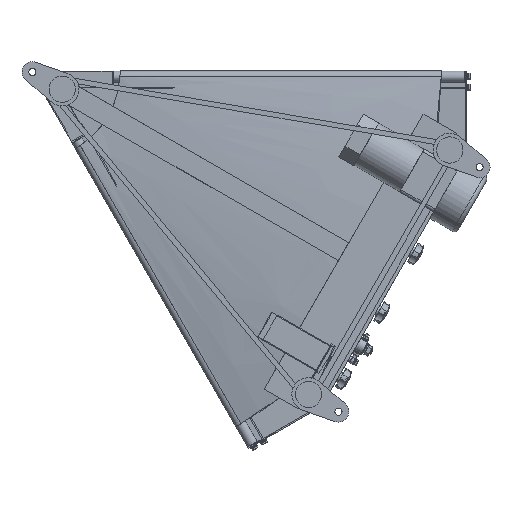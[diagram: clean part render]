
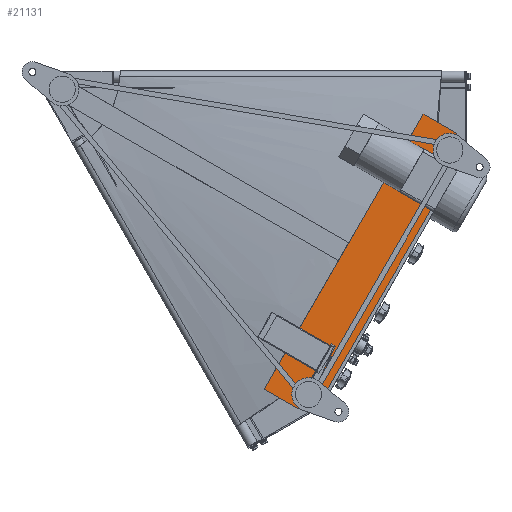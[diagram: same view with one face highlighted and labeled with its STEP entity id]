
A CAD part, front view. The second image highlights one B-rep face of the part: STEP entity #21131.
In plain terms, the highlighted planar face has unit normal (0, -1, 0).
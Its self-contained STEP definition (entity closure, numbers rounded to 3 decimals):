
#324 = VECTOR ( 'NONE', #20031, 1000. ) ;
#1496 = CARTESIAN_POINT ( 'NONE',  ( 425.679, -167.5, -580.629 ) ) ;
#1975 = CARTESIAN_POINT ( 'NONE',  ( 527.282, -167.5, -604.648 ) ) ;
#1992 = ORIENTED_EDGE ( 'NONE', *, *, #27742, .F. ) ;
#2556 = VERTEX_POINT ( 'NONE', #29020 ) ;
#3502 = CARTESIAN_POINT ( 'NONE',  ( 715.679, -167.5, -78.334 ) ) ;
#4289 = VERTEX_POINT ( 'NONE', #23132 ) ;
#5788 = ORIENTED_EDGE ( 'NONE', *, *, #7046, .F. ) ;
#7046 = EDGE_CURVE ( 'NONE', #11549, #4289, #10796, .T. ) ;
#7268 = EDGE_CURVE ( 'NONE', #2556, #18022, #24942, .T. ) ;
#9981 = VERTEX_POINT ( 'NONE', #3502 ) ;
#10311 = ORIENTED_EDGE ( 'NONE', *, *, #7268, .F. ) ;
#10780 = VECTOR ( 'NONE', #22628, 1000. ) ;
#10796 = LINE ( 'NONE', #1496, #324 ) ;
#11549 = VERTEX_POINT ( 'NONE', #30405 ) ;
#14373 = VECTOR ( 'NONE', #29434, 1000. ) ;
#15575 = CARTESIAN_POINT ( 'NONE',  ( 527.282, -167.5, -604.648 ) ) ;
#15815 = EDGE_CURVE ( 'NONE', #18022, #11549, #23230, .T. ) ;
#16755 = EDGE_CURVE ( 'NONE', #31753, #2556, #23995, .T. ) ;
#18022 = VERTEX_POINT ( 'NONE', #15575 ) ;
#18273 = LINE ( 'NONE', #30190, #10780 ) ;
#19398 = AXIS2_PLACEMENT_3D ( 'NONE', #20263, #20144, #30745 ) ;
#19778 = PLANE ( 'NONE',  #19398 ) ;
#20031 = DIRECTION ( 'NONE',  ( -0.866, 0., 0.5 ) ) ;
#20054 = CARTESIAN_POINT ( 'NONE',  ( 715.679, -167.5, -78.334 ) ) ;
#20144 = DIRECTION ( 'NONE',  ( 0., 1., 0. ) ) ;
#20263 = CARTESIAN_POINT ( 'NONE',  ( 9.062, -167.5, -5.232 ) ) ;
#21131 = ADVANCED_FACE ( 'NONE', ( #24205 ), #19778, .F. ) ;
#22139 = VECTOR ( 'NONE', #25532, 1000. ) ;
#22628 = DIRECTION ( 'NONE',  ( 0.5, 0., 0.866 ) ) ;
#23132 = CARTESIAN_POINT ( 'NONE',  ( 425.679, -167.5, -580.629 ) ) ;
#23230 = LINE ( 'NONE', #28581, #26563 ) ;
#23995 = LINE ( 'NONE', #24521, #14373 ) ;
#24117 = VECTOR ( 'NONE', #28646, 1000. ) ;
#24205 = FACE_OUTER_BOUND ( 'NONE', #25577, .T. ) ;
#24521 = CARTESIAN_POINT ( 'NONE',  ( 787.282, -167.5, -154.315 ) ) ;
#24942 = LINE ( 'NONE', #1975, #24117 ) ;
#25532 = DIRECTION ( 'NONE',  ( 0.866, 0., -0.5 ) ) ;
#25577 = EDGE_LOOP ( 'NONE', ( #33066, #29635, #1992, #5788, #27126, #10311 ) ) ;
#25922 = DIRECTION ( 'NONE',  ( -0.966, 0., -0.259 ) ) ;
#25956 = CARTESIAN_POINT ( 'NONE',  ( 776.301, -167.5, -113.334 ) ) ;
#26563 = VECTOR ( 'NONE', #25922, 1000. ) ;
#27126 = ORIENTED_EDGE ( 'NONE', *, *, #15815, .F. ) ;
#27551 = LINE ( 'NONE', #20054, #22139 ) ;
#27742 = EDGE_CURVE ( 'NONE', #4289, #9981, #18273, .T. ) ;
#28581 = CARTESIAN_POINT ( 'NONE',  ( 486.301, -167.5, -615.629 ) ) ;
#28646 = DIRECTION ( 'NONE',  ( -0.5, 0., -0.866 ) ) ;
#29020 = CARTESIAN_POINT ( 'NONE',  ( 787.282, -167.5, -154.315 ) ) ;
#29301 = EDGE_CURVE ( 'NONE', #9981, #31753, #27551, .T. ) ;
#29434 = DIRECTION ( 'NONE',  ( 0.259, 0., -0.966 ) ) ;
#29635 = ORIENTED_EDGE ( 'NONE', *, *, #29301, .F. ) ;
#30190 = CARTESIAN_POINT ( 'NONE',  ( 425.679, -167.5, -580.629 ) ) ;
#30405 = CARTESIAN_POINT ( 'NONE',  ( 486.301, -167.5, -615.629 ) ) ;
#30745 = DIRECTION ( 'NONE',  ( 0.208, 0., 0.978 ) ) ;
#31753 = VERTEX_POINT ( 'NONE', #25956 ) ;
#33066 = ORIENTED_EDGE ( 'NONE', *, *, #16755, .F. ) ;
